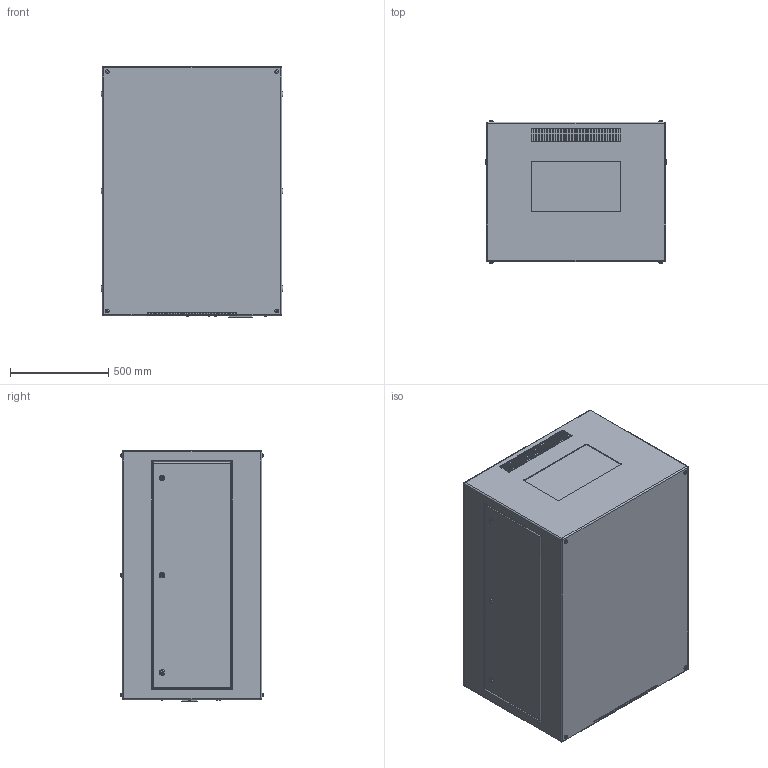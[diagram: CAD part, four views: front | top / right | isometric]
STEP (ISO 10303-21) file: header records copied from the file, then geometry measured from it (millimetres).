
FILE_DESCRIPTION (( 'STEP AP214' ), '1' );
FILE_NAME ('Zen 57.210.L R11.STEP', '2022-09-15T21:15:01', ( '' ), ( '' ), 'SwSTEP 2.0', 'SolidWorks 2020', '' );
FILE_SCHEMA (( 'AUTOMOTIVE_DESIGN' ));
Length unit declared in the file: inch
Products named in the file (1): Zen 57.210.L R11
Bounding box: 927.1 x 725.91 x 1277.62 mm (x, y, z)
Volume: 824340951.7 mm3; surface area: 5785531.2 mm2
Topology: 1 solids, 7 shells, 1134 faces, 2856 edges, 1758 vertices
Faces by surface type: plane 518, cylinder 490, sphere 74, torus 52
Entity records: 37496 total; most frequent: CARTESIAN_POINT 6211, DIRECTION 5988, ORIENTED_EDGE 5564, EDGE_CURVE 2782, AXIS2_PLACEMENT_3D 2167, VERTEX_POINT 1758, VECTOR 1654, LINE 1654
